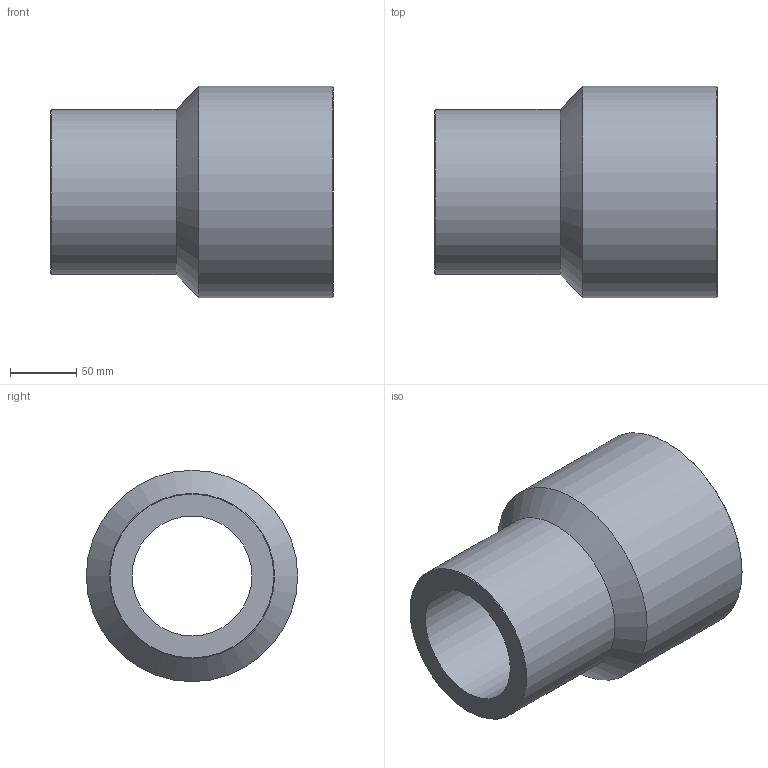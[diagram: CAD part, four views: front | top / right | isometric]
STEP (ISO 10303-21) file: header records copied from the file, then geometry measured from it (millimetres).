
FILE_DESCRIPTION(/* description */ ('Unknown'),/* implementation_level */ '2;1');
FILE_NAME(/* name */ 'RP160125H',/* time_stamp */ '2021-09-16T12:40:22+02:00',/* author */ ('Unknown'),/* organization */ ('Unknown'),/* preprocessor_version */ 'ST-DEVELOPER v16.7',/* originating_system */ 'Solid Edge',/* authorisation */ 'Unknown');
FILE_SCHEMA (('AUTOMOTIVE_DESIGN {1 0 10303 214 3 1 1}'));
Length unit declared in the file: millimetre
Products named in the file (1): RP160125H
Bounding box: 214 x 160 x 160 mm (x, y, z)
Volume: 1681816.4 mm3; surface area: 184910.2 mm2
Topology: 1 solids, 1 shells, 10 faces, 19 edges, 11 vertices
Faces by surface type: cylinder 4, cone 4, plane 2
Full cylindrical faces by diameter (mm): 90.8 x1, 116.2 x1, 125 x1, 160 x1
Entity records: 238 total; most frequent: DIRECTION 42, CARTESIAN_POINT 31, AXIS2_PLACEMENT_3D 21, ORIENTED_EDGE 20, EDGE_LOOP 20, FACE_BOUND 20, EDGE_CURVE 10, VERTEX_POINT 10
